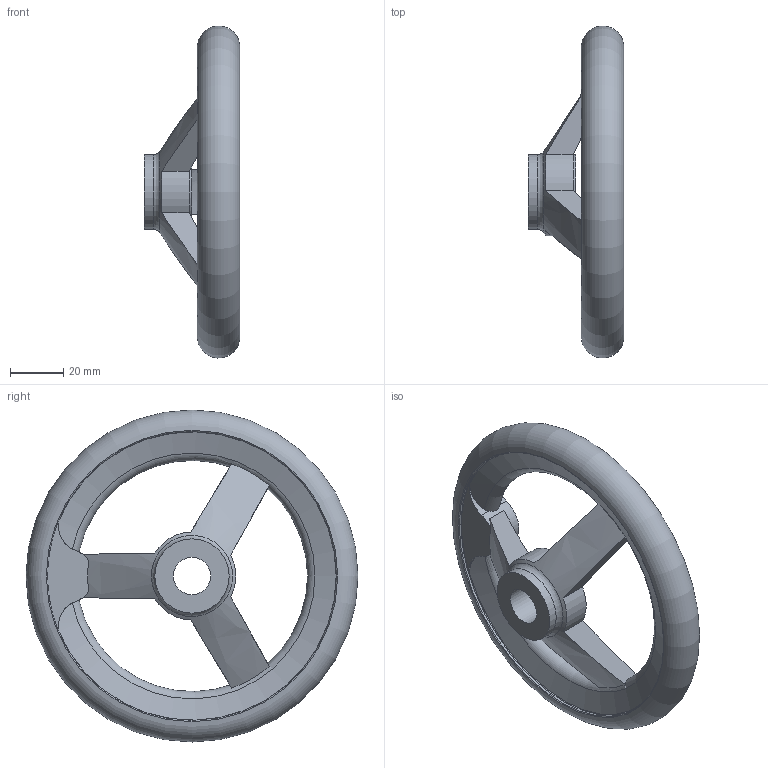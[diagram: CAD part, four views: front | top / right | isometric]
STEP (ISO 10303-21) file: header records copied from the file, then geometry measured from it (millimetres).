
FILE_DESCRIPTION( ( 'STEP AP203' ), '1' );
FILE_NAME( 'C:/Temp/Ganter_Step_05_03_2020/data/1_3/din_950/din_950_b/din_950_b_a/Handwheel DIN 950-GG-125-B14-A.stp', '2020-03-05T10:29:14', ( 'License CC BY-ND 4.0' ), ( 'CADENAS' ), ' ', 'PARTsolutions', ' ' );
FILE_SCHEMA( ( 'CONFIG_CONTROL_DESIGN' ) );
Length unit declared in the file: millimetre
Products named in the file (1): _Handwheel DIN 950-GG-125-B14-A
Bounding box: 36 x 124.99 x 124.99 mm (x, y, z)
Volume: 92774.6 mm3; surface area: 26696.6 mm2
Topology: 1 solids, 1 shells, 37 faces, 107 edges, 68 vertices
Faces by surface type: cylinder 13, torus 10, plane 10, cone 4
Full cylindrical faces by diameter (mm): 14 x1, 28 x2, 109 x2
Entity records: 1476 total; most frequent: CARTESIAN_POINT 563, ORIENTED_EDGE 178, DIRECTION 168, EDGE_CURVE 89, AXIS2_PLACEMENT_3D 78, VERTEX_POINT 65, EDGE_LOOP 55, FACE_OUTER_BOUND 49
